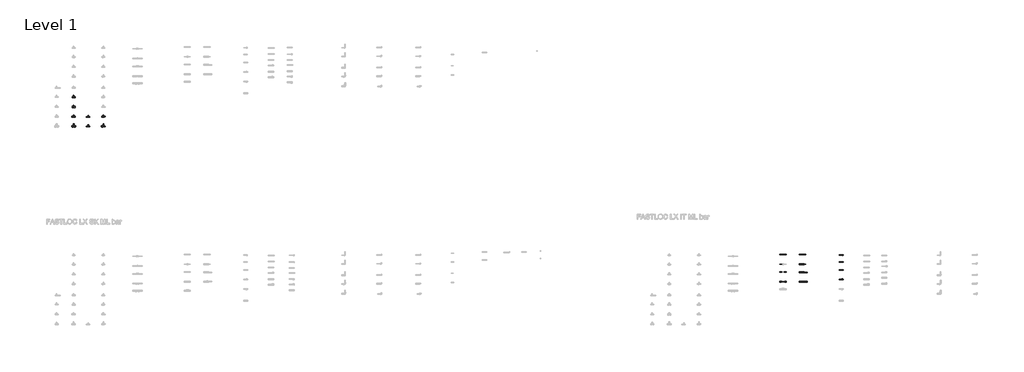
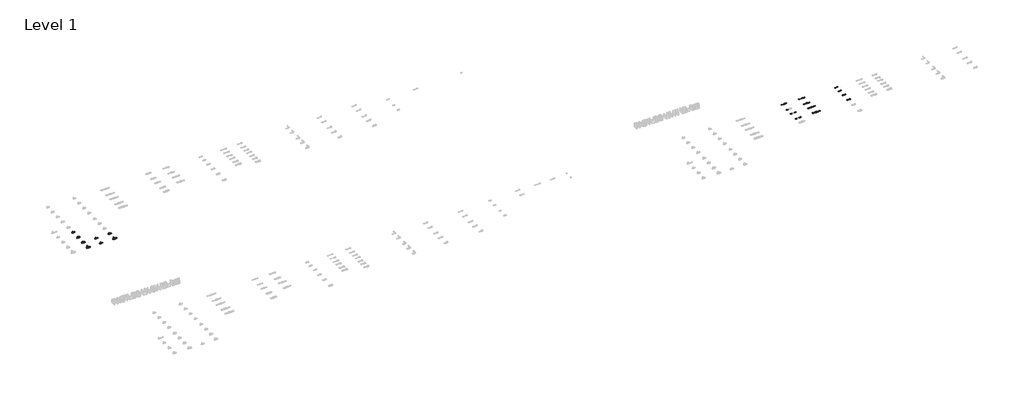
# One storey, part 21 of 78: 39 pipe segments, 17 pipe fittings.
"""IFC4 building model written with IfcOpenShell, lengths in millimetres."""

from ifc_helpers import new_model, si_unit, point, frame, frame_2d, origin, place, context, project, spatial, circle_curve, trimmed, segment, composite_curve, outline, extrude, transform, mapped, element, save
from components import pipe_fitting_e93012df, pipe_fitting_027be69e, pipe_fitting_14a26f43, pipe_fitting_b40a3e3c, pipe_fitting_68251213, pipe_fitting_15165f03, pipe_fitting_7e3be5b8, pipe_fitting_19df1a9e, pipe_fitting_16730f07, pipe_fitting_c4e8b4db, pipe_fitting_757463f1, pipe_fitting_0b32e4b0, pipe_fitting_0562571e, pipe_fitting_d14a7251, pipe_fitting_38e91122, pipe_fitting_ee510fd7, pipe_fitting_a999c26e

model = new_model("IFC4")

# Units and contexts
model_context = context("Model", 3, world=origin())
ifc_project = project(units=[si_unit("LENGTHUNIT", "METRE", prefix="MILLI")], contexts=[model_context])

# Site, building, storey
site = spatial("IfcSite", under=ifc_project)
building = spatial("IfcBuilding", under=site)
storey = spatial("IfcBuildingStorey", under=building, Name="Level 1", Elevation=0.0)

# Pipe fittings
placement = place(None, origin())
pipe_fitting_shape = pipe_fitting_e93012df(model_context)
element("IfcPipeFitting", 1, ObjectType="FASTLOC_Adapter_LX, with external thread : FSL A C external IT", at=placement, inside=storey, context=model_context, shape_type="MappedRepresentation", body=[
    mapped(pipe_fitting_shape, transform((31926.3785179, -18735.7057457, 0.0), x_axis=(1.0, 0.0, 0.0), y_axis=(0.0, 1.0, 0.0), z_axis=(0.0, 0.0, 1.0))),
])
pipe_fitting_2_shape = pipe_fitting_027be69e(model_context)
element("IfcPipeFitting", 2, ObjectType="FASTLOC_Coupling equal LX : FSL C LX IT", at=placement, inside=storey, context=model_context, shape_type="MappedRepresentation", body=[
    mapped(pipe_fitting_2_shape, transform((29488.3790161, -18705.8821283, 0.0), x_axis=(1.0, 0.0, 0.0), y_axis=(0.0, 1.0, 0.0), z_axis=(0.0, 0.0, 1.0))),
])
pipe_fitting_3_shape = pipe_fitting_14a26f43(model_context)
element("IfcPipeFitting", 3, ObjectType="FASTLOC_Coupling reduced LX : FSL C LX IT", at=placement, inside=storey, context=model_context, shape_type="MappedRepresentation", body=[
    mapped(pipe_fitting_3_shape, transform((30326.6928556, -19825.8821283, 0.0), x_axis=(1.0, 0.0, 0.0), y_axis=(0.0, 1.0, 0.0), z_axis=(0.0, 0.0, 1.0))),
])
pipe_fitting_4_shape = pipe_fitting_b40a3e3c(model_context)
element("IfcPipeFitting", 4, ObjectType="FASTLOC_T-piece_LX : FSL T-Piece LX UA", at=placement, inside=storey, context=model_context, shape_type="MappedRepresentation", body=[
    mapped(pipe_fitting_4_shape, transform((426.7498072, -12260.2405791, 0.0), x_axis=(1.0, 0.0, 0.0), y_axis=(0.0, 1.0, 0.0), z_axis=(0.0, 0.0, 1.0))),
])
pipe_fitting_5_shape = pipe_fitting_68251213(model_context)
element("IfcPipeFitting", 5, ObjectType="FASTLOC_T-piece_LX : FSL T-Piece LX UA", at=placement, inside=storey, context=model_context, shape_type="MappedRepresentation", body=[
    mapped(pipe_fitting_5_shape, transform((426.7498072, -12660.2405791, 0.0), x_axis=(1.0, 0.0, 0.0), y_axis=(0.0, 1.0, 0.0), z_axis=(0.0, 0.0, 1.0))),
])
pipe_fitting_6_shape = pipe_fitting_15165f03(model_context)
element("IfcPipeFitting", 6, ObjectType="FASTLOC_T-piece_LX : FSL T-Piece LX UA", at=placement, inside=storey, context=model_context, shape_type="MappedRepresentation", body=[
    mapped(pipe_fitting_6_shape, transform((426.7498072, -13060.2405791, 0.0), x_axis=(1.0, 0.0, 0.0), y_axis=(0.0, 1.0, 0.0), z_axis=(0.0, 0.0, 1.0))),
])
pipe_fitting_7_shape = pipe_fitting_7e3be5b8(model_context)
element("IfcPipeFitting", 7, ObjectType="FASTLOC_T-piece_LX : FSL T-Piece LX UA", at=placement, inside=storey, context=model_context, shape_type="MappedRepresentation", body=[
    mapped(pipe_fitting_7_shape, transform((426.7498072, -13460.2405791, 0.0), x_axis=(1.0, 0.0, 0.0), y_axis=(0.0, 1.0, 0.0), z_axis=(0.0, 0.0, 1.0))),
])
pipe_fitting_8_shape = pipe_fitting_19df1a9e(model_context)
element("IfcPipeFitting", 8, ObjectType="FASTLOC_T-piece_LX : FSL T-Piece LX UA", at=placement, inside=storey, context=model_context, shape_type="MappedRepresentation", body=[
    mapped(pipe_fitting_8_shape, transform((1026.7498072, -13080.2405791, 0.0), x_axis=(1.0, 0.0, 0.0), y_axis=(0.0, 1.0, 0.0), z_axis=(0.0, 0.0, 1.0))),
])
pipe_fitting_9_shape = pipe_fitting_16730f07(model_context)
element("IfcPipeFitting", 9, ObjectType="FASTLOC_T-piece_LX : FSL T-Piece LX UA", at=placement, inside=storey, context=model_context, shape_type="MappedRepresentation", body=[
    mapped(pipe_fitting_9_shape, transform((1026.7498072, -13460.2405791, 0.0), x_axis=(1.0, 0.0, 0.0), y_axis=(0.0, 1.0, 0.0), z_axis=(0.0, 0.0, 1.0))),
])
pipe_fitting_10_shape = pipe_fitting_c4e8b4db(model_context)
element("IfcPipeFitting", 10, ObjectType="FASTLOC_T-piece_LX : FSL T-Piece LX UA", at=placement, inside=storey, context=model_context, shape_type="MappedRepresentation", body=[
    mapped(pipe_fitting_10_shape, transform((1646.7498072, -13060.2405791, 0.0), x_axis=(1.0, 0.0, 0.0), y_axis=(0.0, 1.0, 0.0), z_axis=(0.0, 0.0, 1.0))),
])
pipe_fitting_11_shape = pipe_fitting_757463f1(model_context)
element("IfcPipeFitting", 11, ObjectType="FASTLOC_T-piece_LX : FSL T-Piece LX UA", at=placement, inside=storey, context=model_context, shape_type="MappedRepresentation", body=[
    mapped(pipe_fitting_11_shape, transform((1646.7498072, -13460.2405791, 0.0), x_axis=(1.0, 0.0, 0.0), y_axis=(0.0, 1.0, 0.0), z_axis=(0.0, 0.0, 1.0))),
])
pipe_fitting_12_shape = pipe_fitting_0b32e4b0(model_context)
element("IfcPipeFitting", 12, ObjectType="FASTLOC_Coupling reduced LX : FSL C LX IT", at=placement, inside=storey, context=model_context, shape_type="MappedRepresentation", body=[
    mapped(pipe_fitting_12_shape, transform((30326.6928556, -18705.8821283, 0.0), x_axis=(1.0, 0.0, 0.0), y_axis=(0.0, 1.0, 0.0), z_axis=(0.0, 0.0, 1.0))),
])
pipe_fitting_13_shape = pipe_fitting_0562571e(model_context)
element("IfcPipeFitting", 13, ObjectType="FASTLOC_Coupling reduced LX : FSL C LX IT", at=placement, inside=storey, context=model_context, shape_type="MappedRepresentation", body=[
    mapped(pipe_fitting_13_shape, transform((30326.6928556, -19105.8821283, 0.0), x_axis=(1.0, 0.0, 0.0), y_axis=(0.0, 1.0, 0.0), z_axis=(0.0, 0.0, 1.0))),
])
pipe_fitting_14_shape = pipe_fitting_d14a7251(model_context)
element("IfcPipeFitting", 14, ObjectType="FASTLOC_Coupling reduced LX : FSL C LX IT", at=placement, inside=storey, context=model_context, shape_type="MappedRepresentation", body=[
    mapped(pipe_fitting_14_shape, transform((30326.6928556, -19438.3821283, 0.0), x_axis=(1.0, 0.0, 0.0), y_axis=(0.0, 1.0, 0.0), z_axis=(0.0, 0.0, 1.0))),
])
pipe_fitting_15_shape = pipe_fitting_38e91122(model_context)
element("IfcPipeFitting", 15, ObjectType="FASTLOC_Adapter_LX, with external thread : FSL A C external IT", at=placement, inside=storey, context=model_context, shape_type="MappedRepresentation", body=[
    mapped(pipe_fitting_15_shape, transform((31926.8953131, -19014.2068389, 0.0), x_axis=(1.0, 0.0, 0.0), y_axis=(0.0, 1.0, 0.0), z_axis=(0.0, 0.0, 1.0))),
])
pipe_fitting_16_shape = pipe_fitting_ee510fd7(model_context)
element("IfcPipeFitting", 16, ObjectType="FASTLOC_Adapter_LX, with external thread : FSL A C external IT", at=placement, inside=storey, context=model_context, shape_type="MappedRepresentation", body=[
    mapped(pipe_fitting_16_shape, transform((31926.8953131, -19344.2068389, 0.0), x_axis=(1.0, 0.0, 0.0), y_axis=(0.0, 1.0, 0.0), z_axis=(0.0, 0.0, 1.0))),
])
pipe_fitting_17_shape = pipe_fitting_a999c26e(model_context)
element("IfcPipeFitting", 17, ObjectType="FASTLOC_Adapter_LX, with external thread : FSL A C external IT", at=placement, inside=storey, context=model_context, shape_type="MappedRepresentation", body=[
    mapped(pipe_fitting_17_shape, transform((31926.8953131, -19724.2068389, 0.0), x_axis=(1.0, 0.0, 0.0), y_axis=(0.0, 1.0, 0.0), z_axis=(0.0, 0.0, 1.0))),
])

# Pipe segments
element("IfcPipeSegment", 18, ObjectType="FASTLOC LX ML UA bar", at=placement, inside=storey, context=model_context, shape_type="SweptSolid", body=[
    extrude(outline(composite_curve([segment(trimmed(circle_curve(frame_2d((-12260.2405791, 0.0)), 16.0), [point((-12276.2405791, 0.0))], [point((-12260.2405791, 16.0))], False, "CARTESIAN"), True, "CONTINUOUS"), segment(trimmed(circle_curve(frame_2d((-12260.2405791, 0.0)), 16.0), [point((-12260.2405791, 16.0))], [point((-12244.2405791, 0.0))], False, "CARTESIAN"), True, "CONTINUOUS"), segment(trimmed(circle_curve(frame_2d((-12260.2405791, 0.0)), 16.0), [point((-12244.2405791, 0.0))], [point((-12260.2405791, -16.0))], False, "CARTESIAN"), True, "CONTINUOUS"), segment(trimmed(circle_curve(frame_2d((-12260.2405791, 0.0)), 16.0), [point((-12260.2405791, -16.0))], [point((-12276.2405791, 0.0))], False, "CARTESIAN"), True, "CONTINUOUS")], self_intersect=False)), frame((448.7498072, 0.0, 0.0), z_axis=(1.0, 0.0, 0.0), x_axis=(0.0, 1.0, 0.0)), (0.0, 0.0, 1.0), 40.0),
])
element("IfcPipeSegment", 19, ObjectType="FASTLOC LX ML UA bar", at=placement, inside=storey, context=model_context, shape_type="SweptSolid", body=[
    extrude(outline(composite_curve([segment(trimmed(circle_curve(frame_2d((-12260.2405791, 0.0)), 16.0), [point((-12244.2405791, 0.0))], [point((-12260.2405791, -16.0))], False, "CARTESIAN"), True, "CONTINUOUS"), segment(trimmed(circle_curve(frame_2d((-12260.2405791, 0.0)), 16.0), [point((-12260.2405791, -16.0))], [point((-12276.2405791, 0.0))], False, "CARTESIAN"), True, "CONTINUOUS"), segment(trimmed(circle_curve(frame_2d((-12260.2405791, 0.0)), 16.0), [point((-12276.2405791, 0.0))], [point((-12260.2405791, 16.0))], False, "CARTESIAN"), True, "CONTINUOUS"), segment(trimmed(circle_curve(frame_2d((-12260.2405791, 0.0)), 16.0), [point((-12260.2405791, 16.0))], [point((-12244.2405791, 0.0))], False, "CARTESIAN"), True, "CONTINUOUS")], self_intersect=False)), frame((364.7498072, 0.0, 0.0), z_axis=(1.0, 0.0, 0.0), x_axis=(0.0, 1.0, 0.0)), (0.0, 0.0, 1.0), 40.0),
])
element("IfcPipeSegment", 20, ObjectType="FASTLOC LX ML UA bar", at=placement, inside=storey, context=model_context, shape_type="SweptSolid", body=[
    extrude(outline(composite_curve([segment(trimmed(circle_curve(frame_2d((0.0, 426.7498072)), 12.5), [point((0.0, 439.2498072))], [point((12.5, 426.7498072))], False, "CARTESIAN"), True, "CONTINUOUS"), segment(trimmed(circle_curve(frame_2d((0.0, 426.7498072)), 12.5), [point((12.5, 426.7498072))], [point((0.0, 414.2498072))], False, "CARTESIAN"), True, "CONTINUOUS"), segment(trimmed(circle_curve(frame_2d((0.0, 426.7498072)), 12.5), [point((0.0, 414.2498072))], [point((-12.5, 426.7498072))], False, "CARTESIAN"), True, "CONTINUOUS"), segment(trimmed(circle_curve(frame_2d((0.0, 426.7498072)), 12.5), [point((-12.5, 426.7498072))], [point((0.0, 439.2498072))], False, "CARTESIAN"), True, "CONTINUOUS")], self_intersect=False)), frame((0.0, -12225.8405791, 0.0), z_axis=(0.0, 1.0, 0.0), x_axis=(0.0, 0.0, 1.0)), (0.0, 0.0, 1.0), 37.9),
])
element("IfcPipeSegment", 21, ObjectType="FASTLOC LX ML UA bar", at=placement, inside=storey, context=model_context, shape_type="SweptSolid", body=[
    extrude(outline(composite_curve([segment(trimmed(circle_curve(frame_2d((-12660.2405791, 0.0)), 20.0), [point((-12680.2405791, 0.0))], [point((-12660.2405791, 20.0))], False, "CARTESIAN"), True, "CONTINUOUS"), segment(trimmed(circle_curve(frame_2d((-12660.2405791, 0.0)), 20.0), [point((-12660.2405791, 20.0))], [point((-12640.2405791, 0.0))], False, "CARTESIAN"), True, "CONTINUOUS"), segment(trimmed(circle_curve(frame_2d((-12660.2405791, 0.0)), 20.0), [point((-12640.2405791, 0.0))], [point((-12660.2405791, -20.0))], False, "CARTESIAN"), True, "CONTINUOUS"), segment(trimmed(circle_curve(frame_2d((-12660.2405791, 0.0)), 20.0), [point((-12660.2405791, -20.0))], [point((-12680.2405791, 0.0))], False, "CARTESIAN"), True, "CONTINUOUS")], self_intersect=False)), frame((450.7498072, 0.0, 0.0), z_axis=(1.0, 0.0, 0.0), x_axis=(0.0, 1.0, 0.0)), (0.0, 0.0, 1.0), 45.0),
])
element("IfcPipeSegment", 22, ObjectType="FASTLOC LX ML UA bar", at=placement, inside=storey, context=model_context, shape_type="SweptSolid", body=[
    extrude(outline(composite_curve([segment(trimmed(circle_curve(frame_2d((-13060.2405791, 0.0)), 20.0), [point((-13080.2405791, 0.0))], [point((-13060.2405791, 20.0))], False, "CARTESIAN"), True, "CONTINUOUS"), segment(trimmed(circle_curve(frame_2d((-13060.2405791, 0.0)), 20.0), [point((-13060.2405791, 20.0))], [point((-13040.2405791, 0.0))], False, "CARTESIAN"), True, "CONTINUOUS"), segment(trimmed(circle_curve(frame_2d((-13060.2405791, 0.0)), 20.0), [point((-13040.2405791, 0.0))], [point((-13060.2405791, -20.0))], False, "CARTESIAN"), True, "CONTINUOUS"), segment(trimmed(circle_curve(frame_2d((-13060.2405791, 0.0)), 20.0), [point((-13060.2405791, -20.0))], [point((-13080.2405791, 0.0))], False, "CARTESIAN"), True, "CONTINUOUS")], self_intersect=False)), frame((452.5498072, 0.0, 0.0), z_axis=(1.0, 0.0, 0.0), x_axis=(0.0, 1.0, 0.0)), (0.0, 0.0, 1.0), 47.8),
])
element("IfcPipeSegment", 23, ObjectType="FASTLOC LX ML UA bar", at=placement, inside=storey, context=model_context, shape_type="SweptSolid", body=[
    extrude(outline(composite_curve([segment(trimmed(circle_curve(frame_2d((-13060.2405791, 0.0)), 20.0), [point((-13040.2405791, 0.0))], [point((-13060.2405791, -20.0))], False, "CARTESIAN"), True, "CONTINUOUS"), segment(trimmed(circle_curve(frame_2d((-13060.2405791, 0.0)), 20.0), [point((-13060.2405791, -20.0))], [point((-13080.2405791, 0.0))], False, "CARTESIAN"), True, "CONTINUOUS"), segment(trimmed(circle_curve(frame_2d((-13060.2405791, 0.0)), 20.0), [point((-13080.2405791, 0.0))], [point((-13060.2405791, 20.0))], False, "CARTESIAN"), True, "CONTINUOUS"), segment(trimmed(circle_curve(frame_2d((-13060.2405791, 0.0)), 20.0), [point((-13060.2405791, 20.0))], [point((-13040.2405791, 0.0))], False, "CARTESIAN"), True, "CONTINUOUS")], self_intersect=False)), frame((353.1498072, 0.0, 0.0), z_axis=(1.0, 0.0, 0.0), x_axis=(0.0, 1.0, 0.0)), (0.0, 0.0, 1.0), 47.8),
])
element("IfcPipeSegment", 24, ObjectType="FASTLOC LX ML UA bar", at=placement, inside=storey, context=model_context, shape_type="SweptSolid", body=[
    extrude(outline(composite_curve([segment(trimmed(circle_curve(frame_2d((-13460.2405791, 0.0)), 20.0), [point((-13480.2405791, 0.0))], [point((-13460.2405791, 20.0))], False, "CARTESIAN"), True, "CONTINUOUS"), segment(trimmed(circle_curve(frame_2d((-13460.2405791, 0.0)), 20.0), [point((-13460.2405791, 20.0))], [point((-13440.2405791, 0.0))], False, "CARTESIAN"), True, "CONTINUOUS"), segment(trimmed(circle_curve(frame_2d((-13460.2405791, 0.0)), 20.0), [point((-13440.2405791, 0.0))], [point((-13460.2405791, -20.0))], False, "CARTESIAN"), True, "CONTINUOUS"), segment(trimmed(circle_curve(frame_2d((-13460.2405791, 0.0)), 20.0), [point((-13460.2405791, -20.0))], [point((-13480.2405791, 0.0))], False, "CARTESIAN"), True, "CONTINUOUS")], self_intersect=False)), frame((455.3498072, 0.0, 0.0), z_axis=(1.0, 0.0, 0.0), x_axis=(0.0, 1.0, 0.0)), (0.0, 0.0, 1.0), 52.8),
])
element("IfcPipeSegment", 25, ObjectType="FASTLOC LX ML UA bar", at=placement, inside=storey, context=model_context, shape_type="SweptSolid", body=[
    extrude(outline(composite_curve([segment(trimmed(circle_curve(frame_2d((-13460.2405791, 0.0)), 20.0), [point((-13440.2405791, 0.0))], [point((-13460.2405791, -20.0))], False, "CARTESIAN"), True, "CONTINUOUS"), segment(trimmed(circle_curve(frame_2d((-13460.2405791, 0.0)), 20.0), [point((-13460.2405791, -20.0))], [point((-13480.2405791, 0.0))], False, "CARTESIAN"), True, "CONTINUOUS"), segment(trimmed(circle_curve(frame_2d((-13460.2405791, 0.0)), 20.0), [point((-13480.2405791, 0.0))], [point((-13460.2405791, 20.0))], False, "CARTESIAN"), True, "CONTINUOUS"), segment(trimmed(circle_curve(frame_2d((-13460.2405791, 0.0)), 20.0), [point((-13460.2405791, 20.0))], [point((-13440.2405791, 0.0))], False, "CARTESIAN"), True, "CONTINUOUS")], self_intersect=False)), frame((345.3498072, 0.0, 0.0), z_axis=(1.0, 0.0, 0.0), x_axis=(0.0, 1.0, 0.0)), (0.0, 0.0, 1.0), 52.8),
])
element("IfcPipeSegment", 26, ObjectType="FASTLOC LX ML UA bar", at=placement, inside=storey, context=model_context, shape_type="SweptSolid", body=[
    extrude(outline(composite_curve([segment(trimmed(circle_curve(frame_2d((0.0, 426.7498072)), 16.0), [point((0.0, 442.7498072))], [point((16.0, 426.7498072))], False, "CARTESIAN"), True, "CONTINUOUS"), segment(trimmed(circle_curve(frame_2d((0.0, 426.7498072)), 16.0), [point((16.0, 426.7498072))], [point((0.0, 410.7498072))], False, "CARTESIAN"), True, "CONTINUOUS"), segment(trimmed(circle_curve(frame_2d((0.0, 426.7498072)), 16.0), [point((0.0, 410.7498072))], [point((-16.0, 426.7498072))], False, "CARTESIAN"), True, "CONTINUOUS"), segment(trimmed(circle_curve(frame_2d((0.0, 426.7498072)), 16.0), [point((-16.0, 426.7498072))], [point((0.0, 442.7498072))], False, "CARTESIAN"), True, "CONTINUOUS")], self_intersect=False)), frame((0.0, -13417.4405791, 0.0), z_axis=(0.0, 1.0, 0.0), x_axis=(0.0, 0.0, 1.0)), (0.0, 0.0, 1.0), 64.8),
])
element("IfcPipeSegment", 27, ObjectType="FASTLOC LX ML UA bar", at=placement, inside=storey, context=model_context, shape_type="SweptSolid", body=[
    extrude(outline(composite_curve([segment(trimmed(circle_curve(frame_2d((-13080.2405791, 0.0)), 8.0), [point((-13088.2405791, 0.0))], [point((-13080.2405791, 8.0))], False, "CARTESIAN"), True, "CONTINUOUS"), segment(trimmed(circle_curve(frame_2d((-13080.2405791, 0.0)), 8.0), [point((-13080.2405791, 8.0))], [point((-13072.2405791, 0.0))], False, "CARTESIAN"), True, "CONTINUOUS"), segment(trimmed(circle_curve(frame_2d((-13080.2405791, 0.0)), 8.0), [point((-13072.2405791, 0.0))], [point((-13080.2405791, -8.0))], False, "CARTESIAN"), True, "CONTINUOUS"), segment(trimmed(circle_curve(frame_2d((-13080.2405791, 0.0)), 8.0), [point((-13080.2405791, -8.0))], [point((-13088.2405791, 0.0))], False, "CARTESIAN"), True, "CONTINUOUS")], self_intersect=False)), frame((1043.7498072, 0.0, 0.0), z_axis=(1.0, 0.0, 0.0), x_axis=(0.0, 1.0, 0.0)), (0.0, 0.0, 1.0), 45.0),
])
element("IfcPipeSegment", 28, ObjectType="FASTLOC LX ML UA bar", at=placement, inside=storey, context=model_context, shape_type="SweptSolid", body=[
    extrude(outline(composite_curve([segment(trimmed(circle_curve(frame_2d((-13080.2405791, 0.0)), 8.0), [point((-13072.2405791, 0.0))], [point((-13080.2405791, -8.0))], False, "CARTESIAN"), True, "CONTINUOUS"), segment(trimmed(circle_curve(frame_2d((-13080.2405791, 0.0)), 8.0), [point((-13080.2405791, -8.0))], [point((-13088.2405791, 0.0))], False, "CARTESIAN"), True, "CONTINUOUS"), segment(trimmed(circle_curve(frame_2d((-13080.2405791, 0.0)), 8.0), [point((-13088.2405791, 0.0))], [point((-13080.2405791, 8.0))], False, "CARTESIAN"), True, "CONTINUOUS"), segment(trimmed(circle_curve(frame_2d((-13080.2405791, 0.0)), 8.0), [point((-13080.2405791, 8.0))], [point((-13072.2405791, 0.0))], False, "CARTESIAN"), True, "CONTINUOUS")], self_intersect=False)), frame((949.3498072, 0.0, 0.0), z_axis=(1.0, 0.0, 0.0), x_axis=(0.0, 1.0, 0.0)), (0.0, 0.0, 1.0), 60.0),
])
element("IfcPipeSegment", 29, ObjectType="FASTLOC LX ML UA bar", at=placement, inside=storey, context=model_context, shape_type="SweptSolid", body=[
    extrude(outline(composite_curve([segment(trimmed(circle_curve(frame_2d((0.0, 1026.7498072)), 8.0), [point((0.0, 1034.7498072))], [point((8.0, 1026.7498072))], False, "CARTESIAN"), True, "CONTINUOUS"), segment(trimmed(circle_curve(frame_2d((0.0, 1026.7498072)), 8.0), [point((8.0, 1026.7498072))], [point((0.0, 1018.7498072))], False, "CARTESIAN"), True, "CONTINUOUS"), segment(trimmed(circle_curve(frame_2d((0.0, 1026.7498072)), 8.0), [point((0.0, 1018.7498072))], [point((-8.0, 1026.7498072))], False, "CARTESIAN"), True, "CONTINUOUS"), segment(trimmed(circle_curve(frame_2d((0.0, 1026.7498072)), 8.0), [point((-8.0, 1026.7498072))], [point((0.0, 1034.7498072))], False, "CARTESIAN"), True, "CONTINUOUS")], self_intersect=False)), frame((0.0, -13053.8405791, 0.0), z_axis=(0.0, 1.0, 0.0), x_axis=(0.0, 0.0, 1.0)), (0.0, 0.0, 1.0), 45.9),
])
element("IfcPipeSegment", 30, ObjectType="FASTLOC LX ML UA bar", at=placement, inside=storey, context=model_context, shape_type="SweptSolid", body=[
    extrude(outline(composite_curve([segment(trimmed(circle_curve(frame_2d((-13460.2405791, 0.0)), 8.0), [point((-13468.2405791, 0.0))], [point((-13460.2405791, 8.0))], False, "CARTESIAN"), True, "CONTINUOUS"), segment(trimmed(circle_curve(frame_2d((-13460.2405791, 0.0)), 8.0), [point((-13460.2405791, 8.0))], [point((-13452.2405791, 0.0))], False, "CARTESIAN"), True, "CONTINUOUS"), segment(trimmed(circle_curve(frame_2d((-13460.2405791, 0.0)), 8.0), [point((-13452.2405791, 0.0))], [point((-13460.2405791, -8.0))], False, "CARTESIAN"), True, "CONTINUOUS"), segment(trimmed(circle_curve(frame_2d((-13460.2405791, 0.0)), 8.0), [point((-13460.2405791, -8.0))], [point((-13468.2405791, 0.0))], False, "CARTESIAN"), True, "CONTINUOUS")], self_intersect=False)), frame((1045.5498072, 0.0, 0.0), z_axis=(1.0, 0.0, 0.0), x_axis=(0.0, 1.0, 0.0)), (0.0, 0.0, 1.0), 43.2),
])
element("IfcPipeSegment", 31, ObjectType="FASTLOC LX ML UA bar", at=placement, inside=storey, context=model_context, shape_type="SweptSolid", body=[
    extrude(outline(composite_curve([segment(trimmed(circle_curve(frame_2d((-13460.2405791, 0.0)), 12.5), [point((-13447.7405791, 0.0))], [point((-13460.2405791, -12.5))], False, "CARTESIAN"), True, "CONTINUOUS"), segment(trimmed(circle_curve(frame_2d((-13460.2405791, 0.0)), 12.5), [point((-13460.2405791, -12.5))], [point((-13472.7405791, 0.0))], False, "CARTESIAN"), True, "CONTINUOUS"), segment(trimmed(circle_curve(frame_2d((-13460.2405791, 0.0)), 12.5), [point((-13472.7405791, 0.0))], [point((-13460.2405791, 12.5))], False, "CARTESIAN"), True, "CONTINUOUS"), segment(trimmed(circle_curve(frame_2d((-13460.2405791, 0.0)), 12.5), [point((-13460.2405791, 12.5))], [point((-13447.7405791, 0.0))], False, "CARTESIAN"), True, "CONTINUOUS")], self_intersect=False)), frame((944.3498072, 0.0, 0.0), z_axis=(1.0, 0.0, 0.0), x_axis=(0.0, 1.0, 0.0)), (0.0, 0.0, 1.0), 62.3),
])
element("IfcPipeSegment", 32, ObjectType="FASTLOC LX ML UA bar", at=placement, inside=storey, context=model_context, shape_type="SweptSolid", body=[
    extrude(outline(composite_curve([segment(trimmed(circle_curve(frame_2d((0.0, 1026.7498072)), 12.5), [point((0.0, 1039.2498072))], [point((12.5, 1026.7498072))], False, "CARTESIAN"), True, "CONTINUOUS"), segment(trimmed(circle_curve(frame_2d((0.0, 1026.7498072)), 12.5), [point((12.5, 1026.7498072))], [point((0.0, 1014.2498072))], False, "CARTESIAN"), True, "CONTINUOUS"), segment(trimmed(circle_curve(frame_2d((0.0, 1026.7498072)), 12.5), [point((0.0, 1014.2498072))], [point((-12.5, 1026.7498072))], False, "CARTESIAN"), True, "CONTINUOUS"), segment(trimmed(circle_curve(frame_2d((0.0, 1026.7498072)), 12.5), [point((-12.5, 1026.7498072))], [point((0.0, 1039.2498072))], False, "CARTESIAN"), True, "CONTINUOUS")], self_intersect=False)), frame((0.0, -13430.7405791, 0.0), z_axis=(0.0, 1.0, 0.0), x_axis=(0.0, 0.0, 1.0)), (0.0, 0.0, 1.0), 42.8),
])
element("IfcPipeSegment", 33, ObjectType="FASTLOC LX ML UA bar", at=placement, inside=storey, context=model_context, shape_type="SweptSolid", body=[
    extrude(outline(composite_curve([segment(trimmed(circle_curve(frame_2d((-13060.2405791, 0.0)), 12.5), [point((-13072.7405791, 0.0))], [point((-13060.2405791, 12.5))], False, "CARTESIAN"), True, "CONTINUOUS"), segment(trimmed(circle_curve(frame_2d((-13060.2405791, 0.0)), 12.5), [point((-13060.2405791, 12.5))], [point((-13047.7405791, 0.0))], False, "CARTESIAN"), True, "CONTINUOUS"), segment(trimmed(circle_curve(frame_2d((-13060.2405791, 0.0)), 12.5), [point((-13047.7405791, 0.0))], [point((-13060.2405791, -12.5))], False, "CARTESIAN"), True, "CONTINUOUS"), segment(trimmed(circle_curve(frame_2d((-13060.2405791, 0.0)), 12.5), [point((-13060.2405791, -12.5))], [point((-13072.7405791, 0.0))], False, "CARTESIAN"), True, "CONTINUOUS")], self_intersect=False)), frame((1666.8498072, 0.0, 0.0), z_axis=(1.0, 0.0, 0.0), x_axis=(0.0, 1.0, 0.0)), (0.0, 0.0, 1.0), 53.5),
])
element("IfcPipeSegment", 34, ObjectType="FASTLOC LX ML UA bar", at=placement, inside=storey, context=model_context, shape_type="SweptSolid", body=[
    extrude(outline(composite_curve([segment(trimmed(circle_curve(frame_2d((-13060.2405791, 0.0)), 16.0), [point((-13044.2405791, 0.0))], [point((-13060.2405791, -16.0))], False, "CARTESIAN"), True, "CONTINUOUS"), segment(trimmed(circle_curve(frame_2d((-13060.2405791, 0.0)), 16.0), [point((-13060.2405791, -16.0))], [point((-13076.2405791, 0.0))], False, "CARTESIAN"), True, "CONTINUOUS"), segment(trimmed(circle_curve(frame_2d((-13060.2405791, 0.0)), 16.0), [point((-13076.2405791, 0.0))], [point((-13060.2405791, 16.0))], False, "CARTESIAN"), True, "CONTINUOUS"), segment(trimmed(circle_curve(frame_2d((-13060.2405791, 0.0)), 16.0), [point((-13060.2405791, 16.0))], [point((-13044.2405791, 0.0))], False, "CARTESIAN"), True, "CONTINUOUS")], self_intersect=False)), frame((1573.1498072, 0.0, 0.0), z_axis=(1.0, 0.0, 0.0), x_axis=(0.0, 1.0, 0.0)), (0.0, 0.0, 1.0), 51.5),
])
element("IfcPipeSegment", 35, ObjectType="FASTLOC LX ML UA bar", at=placement, inside=storey, context=model_context, shape_type="SweptSolid", body=[
    extrude(outline(composite_curve([segment(trimmed(circle_curve(frame_2d((-13460.2405791, 0.0)), 16.0), [point((-13476.2405791, 0.0))], [point((-13460.2405791, 16.0))], False, "CARTESIAN"), True, "CONTINUOUS"), segment(trimmed(circle_curve(frame_2d((-13460.2405791, 0.0)), 16.0), [point((-13460.2405791, 16.0))], [point((-13444.2405791, 0.0))], False, "CARTESIAN"), True, "CONTINUOUS"), segment(trimmed(circle_curve(frame_2d((-13460.2405791, 0.0)), 16.0), [point((-13444.2405791, 0.0))], [point((-13460.2405791, -16.0))], False, "CARTESIAN"), True, "CONTINUOUS"), segment(trimmed(circle_curve(frame_2d((-13460.2405791, 0.0)), 16.0), [point((-13460.2405791, -16.0))], [point((-13476.2405791, 0.0))], False, "CARTESIAN"), True, "CONTINUOUS")], self_intersect=False)), frame((1671.6498072, 0.0, 0.0), z_axis=(1.0, 0.0, 0.0), x_axis=(0.0, 1.0, 0.0)), (0.0, 0.0, 1.0), 56.5),
])
element("IfcPipeSegment", 36, ObjectType="FASTLOC LX ML UA bar", at=placement, inside=storey, context=model_context, shape_type="SweptSolid", body=[
    extrude(outline(composite_curve([segment(trimmed(circle_curve(frame_2d((-13460.2405791, 0.0)), 20.0), [point((-13440.2405791, 0.0))], [point((-13460.2405791, -20.0))], False, "CARTESIAN"), True, "CONTINUOUS"), segment(trimmed(circle_curve(frame_2d((-13460.2405791, 0.0)), 20.0), [point((-13460.2405791, -20.0))], [point((-13480.2405791, 0.0))], False, "CARTESIAN"), True, "CONTINUOUS"), segment(trimmed(circle_curve(frame_2d((-13460.2405791, 0.0)), 20.0), [point((-13480.2405791, 0.0))], [point((-13460.2405791, 20.0))], False, "CARTESIAN"), True, "CONTINUOUS"), segment(trimmed(circle_curve(frame_2d((-13460.2405791, 0.0)), 20.0), [point((-13460.2405791, 20.0))], [point((-13440.2405791, 0.0))], False, "CARTESIAN"), True, "CONTINUOUS")], self_intersect=False)), frame((1565.3498072, 0.0, 0.0), z_axis=(1.0, 0.0, 0.0), x_axis=(0.0, 1.0, 0.0)), (0.0, 0.0, 1.0), 52.7),
])
element("IfcPipeSegment", 37, ObjectType="FASTLOC LX ML UA bar", at=placement, inside=storey, context=model_context, shape_type="SweptSolid", body=[
    extrude(outline(composite_curve([segment(trimmed(circle_curve(frame_2d((0.0, 1646.7498072)), 16.0), [point((0.0, 1662.7498072))], [point((16.0, 1646.7498072))], False, "CARTESIAN"), True, "CONTINUOUS"), segment(trimmed(circle_curve(frame_2d((0.0, 1646.7498072)), 16.0), [point((16.0, 1646.7498072))], [point((0.0, 1630.7498072))], False, "CARTESIAN"), True, "CONTINUOUS"), segment(trimmed(circle_curve(frame_2d((0.0, 1646.7498072)), 16.0), [point((0.0, 1630.7498072))], [point((-16.0, 1646.7498072))], False, "CARTESIAN"), True, "CONTINUOUS"), segment(trimmed(circle_curve(frame_2d((0.0, 1646.7498072)), 16.0), [point((-16.0, 1646.7498072))], [point((0.0, 1662.7498072))], False, "CARTESIAN"), True, "CONTINUOUS")], self_intersect=False)), frame((0.0, -13417.4405791, 0.0), z_axis=(0.0, 1.0, 0.0), x_axis=(0.0, 0.0, 1.0)), (0.0, 0.0, 1.0), 64.8),
])
element("IfcPipeSegment", 38, ObjectType="FASTLOC LX ML IT bar", at=placement, inside=storey, context=model_context, shape_type="SweptSolid", body=[
    extrude(outline(composite_curve([segment(trimmed(circle_curve(frame_2d((-18705.8821283, 0.0)), 8.0), [point((-18713.8821283, 0.0))], [point((-18705.8821283, 8.0))], False, "CARTESIAN"), True, "CONTINUOUS"), segment(trimmed(circle_curve(frame_2d((-18705.8821283, 0.0)), 8.0), [point((-18705.8821283, 8.0))], [point((-18697.8821283, 0.0))], False, "CARTESIAN"), True, "CONTINUOUS"), segment(trimmed(circle_curve(frame_2d((-18705.8821283, 0.0)), 8.0), [point((-18697.8821283, 0.0))], [point((-18705.8821283, -8.0))], False, "CARTESIAN"), True, "CONTINUOUS"), segment(trimmed(circle_curve(frame_2d((-18705.8821283, 0.0)), 8.0), [point((-18705.8821283, -8.0))], [point((-18713.8821283, 0.0))], False, "CARTESIAN"), True, "CONTINUOUS")], self_intersect=False)), frame((29495.5790161, 0.0, 0.0), z_axis=(1.0, 0.0, 0.0), x_axis=(0.0, 1.0, 0.0)), (0.0, 0.0, 1.0), 115.0),
])
element("IfcPipeSegment", 39, ObjectType="FASTLOC LX ML IT bar", at=placement, inside=storey, context=model_context, shape_type="SweptSolid", body=[
    extrude(outline(composite_curve([segment(trimmed(circle_curve(frame_2d((-18705.8821283, 0.0)), 8.0), [point((-18697.8821283, 0.0))], [point((-18705.8821283, -8.0))], False, "CARTESIAN"), True, "CONTINUOUS"), segment(trimmed(circle_curve(frame_2d((-18705.8821283, 0.0)), 8.0), [point((-18705.8821283, -8.0))], [point((-18713.8821283, 0.0))], False, "CARTESIAN"), True, "CONTINUOUS"), segment(trimmed(circle_curve(frame_2d((-18705.8821283, 0.0)), 8.0), [point((-18713.8821283, 0.0))], [point((-18705.8821283, 8.0))], False, "CARTESIAN"), True, "CONTINUOUS"), segment(trimmed(circle_curve(frame_2d((-18705.8821283, 0.0)), 8.0), [point((-18705.8821283, 8.0))], [point((-18697.8821283, 0.0))], False, "CARTESIAN"), True, "CONTINUOUS")], self_intersect=False)), frame((29361.1790161, 0.0, 0.0), z_axis=(1.0, 0.0, 0.0), x_axis=(0.0, 1.0, 0.0)), (0.0, 0.0, 1.0), 120.0),
])
element("IfcPipeSegment", 40, ObjectType="FASTLOC LX ML IT bar", at=placement, inside=storey, context=model_context, shape_type="SweptSolid", body=[
    extrude(outline(composite_curve([segment(trimmed(circle_curve(frame_2d((-19105.8821283, 0.0)), 8.0), [point((-19097.8821283, 0.0))], [point((-19105.8821283, -8.0))], False, "CARTESIAN"), True, "CONTINUOUS"), segment(trimmed(circle_curve(frame_2d((-19105.8821283, 0.0)), 8.0), [point((-19105.8821283, -8.0))], [point((-19113.8821283, 0.0))], False, "CARTESIAN"), True, "CONTINUOUS"), segment(trimmed(circle_curve(frame_2d((-19105.8821283, 0.0)), 8.0), [point((-19113.8821283, 0.0))], [point((-19105.8821283, 8.0))], False, "CARTESIAN"), True, "CONTINUOUS"), segment(trimmed(circle_curve(frame_2d((-19105.8821283, 0.0)), 8.0), [point((-19105.8821283, 8.0))], [point((-19097.8821283, 0.0))], False, "CARTESIAN"), True, "CONTINUOUS")], self_intersect=False)), frame((29361.1790161, 0.0, 0.0), z_axis=(1.0, 0.0, 0.0), x_axis=(0.0, 1.0, 0.0)), (0.0, 0.0, 1.0), 119.8),
])
element("IfcPipeSegment", 41, ObjectType="FASTLOC LX ML IT bar", at=placement, inside=storey, context=model_context, shape_type="SweptSolid", body=[
    extrude(outline(composite_curve([segment(trimmed(circle_curve(frame_2d((-19425.8821283, 0.0)), 12.5), [point((-19438.3821283, 0.0))], [point((-19425.8821283, 12.5))], False, "CARTESIAN"), True, "CONTINUOUS"), segment(trimmed(circle_curve(frame_2d((-19425.8821283, 0.0)), 12.5), [point((-19425.8821283, 12.5))], [point((-19413.3821283, 0.0))], False, "CARTESIAN"), True, "CONTINUOUS"), segment(trimmed(circle_curve(frame_2d((-19425.8821283, 0.0)), 12.5), [point((-19413.3821283, 0.0))], [point((-19425.8821283, -12.5))], False, "CARTESIAN"), True, "CONTINUOUS"), segment(trimmed(circle_curve(frame_2d((-19425.8821283, 0.0)), 12.5), [point((-19425.8821283, -12.5))], [point((-19438.3821283, 0.0))], False, "CARTESIAN"), True, "CONTINUOUS")], self_intersect=False)), frame((29496.3790161, 0.0, 0.0), z_axis=(1.0, 0.0, 0.0), x_axis=(0.0, 1.0, 0.0)), (0.0, 0.0, 1.0), 114.2),
])
element("IfcPipeSegment", 42, ObjectType="FASTLOC LX ML IT bar", at=placement, inside=storey, context=model_context, shape_type="SweptSolid", body=[
    extrude(outline(composite_curve([segment(trimmed(circle_curve(frame_2d((-19425.8821283, 0.0)), 12.5), [point((-19413.3821283, 0.0))], [point((-19425.8821283, -12.5))], False, "CARTESIAN"), True, "CONTINUOUS"), segment(trimmed(circle_curve(frame_2d((-19425.8821283, 0.0)), 12.5), [point((-19425.8821283, -12.5))], [point((-19438.3821283, 0.0))], False, "CARTESIAN"), True, "CONTINUOUS"), segment(trimmed(circle_curve(frame_2d((-19425.8821283, 0.0)), 12.5), [point((-19438.3821283, 0.0))], [point((-19425.8821283, 12.5))], False, "CARTESIAN"), True, "CONTINUOUS"), segment(trimmed(circle_curve(frame_2d((-19425.8821283, 0.0)), 12.5), [point((-19425.8821283, 12.5))], [point((-19413.3821283, 0.0))], False, "CARTESIAN"), True, "CONTINUOUS")], self_intersect=False)), frame((29361.1790161, 0.0, 0.0), z_axis=(1.0, 0.0, 0.0), x_axis=(0.0, 1.0, 0.0)), (0.0, 0.0, 1.0), 119.2),
])
element("IfcPipeSegment", 43, ObjectType="FASTLOC LX ML IT bar", at=placement, inside=storey, context=model_context, shape_type="SweptSolid", body=[
    extrude(outline(composite_curve([segment(trimmed(circle_curve(frame_2d((-19825.8821283, 0.0)), 16.0), [point((-19841.8821283, 0.0))], [point((-19825.8821283, 16.0))], False, "CARTESIAN"), True, "CONTINUOUS"), segment(trimmed(circle_curve(frame_2d((-19825.8821283, 0.0)), 16.0), [point((-19825.8821283, 16.0))], [point((-19809.8821283, 0.0))], False, "CARTESIAN"), True, "CONTINUOUS"), segment(trimmed(circle_curve(frame_2d((-19825.8821283, 0.0)), 16.0), [point((-19809.8821283, 0.0))], [point((-19825.8821283, -16.0))], False, "CARTESIAN"), True, "CONTINUOUS"), segment(trimmed(circle_curve(frame_2d((-19825.8821283, 0.0)), 16.0), [point((-19825.8821283, -16.0))], [point((-19841.8821283, 0.0))], False, "CARTESIAN"), True, "CONTINUOUS")], self_intersect=False)), frame((29498.3790161, 0.0, 0.0), z_axis=(1.0, 0.0, 0.0), x_axis=(0.0, 1.0, 0.0)), (0.0, 0.0, 1.0), 112.2),
])
element("IfcPipeSegment", 44, ObjectType="FASTLOC LX ML IT bar", at=placement, inside=storey, context=model_context, shape_type="SweptSolid", body=[
    extrude(outline(composite_curve([segment(trimmed(circle_curve(frame_2d((-19825.8821283, 0.0)), 16.0), [point((-19809.8821283, 0.0))], [point((-19825.8821283, -16.0))], False, "CARTESIAN"), True, "CONTINUOUS"), segment(trimmed(circle_curve(frame_2d((-19825.8821283, 0.0)), 16.0), [point((-19825.8821283, -16.0))], [point((-19841.8821283, 0.0))], False, "CARTESIAN"), True, "CONTINUOUS"), segment(trimmed(circle_curve(frame_2d((-19825.8821283, 0.0)), 16.0), [point((-19841.8821283, 0.0))], [point((-19825.8821283, 16.0))], False, "CARTESIAN"), True, "CONTINUOUS"), segment(trimmed(circle_curve(frame_2d((-19825.8821283, 0.0)), 16.0), [point((-19825.8821283, 16.0))], [point((-19809.8821283, 0.0))], False, "CARTESIAN"), True, "CONTINUOUS")], self_intersect=False)), frame((29361.1790161, 0.0, 0.0), z_axis=(1.0, 0.0, 0.0), x_axis=(0.0, 1.0, 0.0)), (0.0, 0.0, 1.0), 117.2),
])
element("IfcPipeSegment", 45, ObjectType="FASTLOC LX ML IT bar", at=placement, inside=storey, context=model_context, shape_type="SweptSolid", body=[
    extrude(outline(composite_curve([segment(trimmed(circle_curve(frame_2d((-18705.8821283, 0.0)), 8.0), [point((-18713.8821283, 0.0))], [point((-18705.8821283, 8.0))], False, "CARTESIAN"), True, "CONTINUOUS"), segment(trimmed(circle_curve(frame_2d((-18705.8821283, 0.0)), 8.0), [point((-18705.8821283, 8.0))], [point((-18697.8821283, 0.0))], False, "CARTESIAN"), True, "CONTINUOUS"), segment(trimmed(circle_curve(frame_2d((-18705.8821283, 0.0)), 8.0), [point((-18697.8821283, 0.0))], [point((-18705.8821283, -8.0))], False, "CARTESIAN"), True, "CONTINUOUS"), segment(trimmed(circle_curve(frame_2d((-18705.8821283, 0.0)), 8.0), [point((-18705.8821283, -8.0))], [point((-18713.8821283, 0.0))], False, "CARTESIAN"), True, "CONTINUOUS")], self_intersect=False)), frame((30332.9928556, 0.0, 0.0), z_axis=(1.0, 0.0, 0.0), x_axis=(0.0, 1.0, 0.0)), (0.0, 0.0, 1.0), 95.0),
])
element("IfcPipeSegment", 46, ObjectType="FASTLOC LX ML IT bar", at=placement, inside=storey, context=model_context, shape_type="SweptSolid", body=[
    extrude(outline(composite_curve([segment(trimmed(circle_curve(frame_2d((-18705.8821283, 0.0)), 8.0), [point((-18697.8821283, 0.0))], [point((-18705.8821283, -8.0))], False, "CARTESIAN"), True, "CONTINUOUS"), segment(trimmed(circle_curve(frame_2d((-18705.8821283, 0.0)), 8.0), [point((-18705.8821283, -8.0))], [point((-18713.8821283, 0.0))], False, "CARTESIAN"), True, "CONTINUOUS"), segment(trimmed(circle_curve(frame_2d((-18705.8821283, 0.0)), 8.0), [point((-18713.8821283, 0.0))], [point((-18705.8821283, 8.0))], False, "CARTESIAN"), True, "CONTINUOUS"), segment(trimmed(circle_curve(frame_2d((-18705.8821283, 0.0)), 8.0), [point((-18705.8821283, 8.0))], [point((-18697.8821283, 0.0))], False, "CARTESIAN"), True, "CONTINUOUS")], self_intersect=False)), frame((30152.9928556, 0.0, 0.0), z_axis=(1.0, 0.0, 0.0), x_axis=(0.0, 1.0, 0.0)), (0.0, 0.0, 1.0), 165.0),
])
element("IfcPipeSegment", 47, ObjectType="FASTLOC LX ML IT bar", at=placement, inside=storey, context=model_context, shape_type="SweptSolid", body=[
    extrude(outline(composite_curve([segment(trimmed(circle_curve(frame_2d((-19105.8821283, 0.0)), 12.5), [point((-19093.3821283, 0.0))], [point((-19105.8821283, -12.5))], False, "CARTESIAN"), True, "CONTINUOUS"), segment(trimmed(circle_curve(frame_2d((-19105.8821283, 0.0)), 12.5), [point((-19105.8821283, -12.5))], [point((-19118.3821283, 0.0))], False, "CARTESIAN"), True, "CONTINUOUS"), segment(trimmed(circle_curve(frame_2d((-19105.8821283, 0.0)), 12.5), [point((-19118.3821283, 0.0))], [point((-19105.8821283, 12.5))], False, "CARTESIAN"), True, "CONTINUOUS"), segment(trimmed(circle_curve(frame_2d((-19105.8821283, 0.0)), 12.5), [point((-19105.8821283, 12.5))], [point((-19093.3821283, 0.0))], False, "CARTESIAN"), True, "CONTINUOUS")], self_intersect=False)), frame((30152.9928556, 0.0, 0.0), z_axis=(1.0, 0.0, 0.0), x_axis=(0.0, 1.0, 0.0)), (0.0, 0.0, 1.0), 163.9),
])
element("IfcPipeSegment", 48, ObjectType="FASTLOC LX ML IT bar", at=placement, inside=storey, context=model_context, shape_type="SweptSolid", body=[
    extrude(outline(composite_curve([segment(trimmed(circle_curve(frame_2d((-19105.8821283, 0.0)), 8.0), [point((-19113.8821283, 0.0))], [point((-19105.8821283, 8.0))], False, "CARTESIAN"), True, "CONTINUOUS"), segment(trimmed(circle_curve(frame_2d((-19105.8821283, 0.0)), 8.0), [point((-19105.8821283, 8.0))], [point((-19097.8821283, 0.0))], False, "CARTESIAN"), True, "CONTINUOUS"), segment(trimmed(circle_curve(frame_2d((-19105.8821283, 0.0)), 8.0), [point((-19097.8821283, 0.0))], [point((-19105.8821283, -8.0))], False, "CARTESIAN"), True, "CONTINUOUS"), segment(trimmed(circle_curve(frame_2d((-19105.8821283, 0.0)), 8.0), [point((-19105.8821283, -8.0))], [point((-19113.8821283, 0.0))], False, "CARTESIAN"), True, "CONTINUOUS")], self_intersect=False)), frame((30332.3928556, 0.0, 0.0), z_axis=(1.0, 0.0, 0.0), x_axis=(0.0, 1.0, 0.0)), (0.0, 0.0, 1.0), 95.6),
])
element("IfcPipeSegment", 49, ObjectType="FASTLOC LX ML IT bar", at=placement, inside=storey, context=model_context, shape_type="SweptSolid", body=[
    extrude(outline(composite_curve([segment(trimmed(circle_curve(frame_2d((-19825.8821283, 0.0)), 20.0), [point((-19805.8821283, 0.0))], [point((-19825.8821283, -20.0))], False, "CARTESIAN"), True, "CONTINUOUS"), segment(trimmed(circle_curve(frame_2d((-19825.8821283, 0.0)), 20.0), [point((-19825.8821283, -20.0))], [point((-19845.8821283, 0.0))], False, "CARTESIAN"), True, "CONTINUOUS"), segment(trimmed(circle_curve(frame_2d((-19825.8821283, 0.0)), 20.0), [point((-19845.8821283, 0.0))], [point((-19825.8821283, 20.0))], False, "CARTESIAN"), True, "CONTINUOUS"), segment(trimmed(circle_curve(frame_2d((-19825.8821283, 0.0)), 20.0), [point((-19825.8821283, 20.0))], [point((-19805.8821283, 0.0))], False, "CARTESIAN"), True, "CONTINUOUS")], self_intersect=False)), frame((30152.9928556, 0.0, 0.0), z_axis=(1.0, 0.0, 0.0), x_axis=(0.0, 1.0, 0.0)), (0.0, 0.0, 1.0), 162.1),
])
element("IfcPipeSegment", 50, ObjectType="FASTLOC LX ML IT bar", at=placement, inside=storey, context=model_context, shape_type="SweptSolid", body=[
    extrude(outline(composite_curve([segment(trimmed(circle_curve(frame_2d((-19825.8821283, 0.0)), 16.0), [point((-19841.8821283, 0.0))], [point((-19825.8821283, 16.0))], False, "CARTESIAN"), True, "CONTINUOUS"), segment(trimmed(circle_curve(frame_2d((-19825.8821283, 0.0)), 16.0), [point((-19825.8821283, 16.0))], [point((-19809.8821283, 0.0))], False, "CARTESIAN"), True, "CONTINUOUS"), segment(trimmed(circle_curve(frame_2d((-19825.8821283, 0.0)), 16.0), [point((-19809.8821283, 0.0))], [point((-19825.8821283, -16.0))], False, "CARTESIAN"), True, "CONTINUOUS"), segment(trimmed(circle_curve(frame_2d((-19825.8821283, 0.0)), 16.0), [point((-19825.8821283, -16.0))], [point((-19841.8821283, 0.0))], False, "CARTESIAN"), True, "CONTINUOUS")], self_intersect=False)), frame((30337.5928556, 0.0, 0.0), z_axis=(1.0, 0.0, 0.0), x_axis=(0.0, 1.0, 0.0)), (0.0, 0.0, 1.0), 150.0),
])
element("IfcPipeSegment", 51, ObjectType="FASTLOC LX ML IT bar", at=placement, inside=storey, context=model_context, shape_type="SweptSolid", body=[
    extrude(outline(composite_curve([segment(trimmed(circle_curve(frame_2d((-18735.7057457, 0.0)), 8.0), [point((-18727.7057457, 0.0))], [point((-18735.7057457, -8.0))], False, "CARTESIAN"), True, "CONTINUOUS"), segment(trimmed(circle_curve(frame_2d((-18735.7057457, 0.0)), 8.0), [point((-18735.7057457, -8.0))], [point((-18743.7057457, 0.0))], False, "CARTESIAN"), True, "CONTINUOUS"), segment(trimmed(circle_curve(frame_2d((-18735.7057457, 0.0)), 8.0), [point((-18743.7057457, 0.0))], [point((-18735.7057457, 8.0))], False, "CARTESIAN"), True, "CONTINUOUS"), segment(trimmed(circle_curve(frame_2d((-18735.7057457, 0.0)), 8.0), [point((-18735.7057457, 8.0))], [point((-18727.7057457, 0.0))], False, "CARTESIAN"), True, "CONTINUOUS")], self_intersect=False)), frame((31802.0785179, 0.0, 0.0), z_axis=(1.0, 0.0, 0.0), x_axis=(0.0, 1.0, 0.0)), (0.0, 0.0, 1.0), 115.4),
])
element("IfcPipeSegment", 52, ObjectType="FASTLOC LX ML IT bar", at=placement, inside=storey, context=model_context, shape_type="SweptSolid", body=[
    extrude(outline(composite_curve([segment(trimmed(circle_curve(frame_2d((-19014.2068389, 0.0)), 8.0), [point((-19006.2068389, 0.0))], [point((-19014.2068389, -8.0))], False, "CARTESIAN"), True, "CONTINUOUS"), segment(trimmed(circle_curve(frame_2d((-19014.2068389, 0.0)), 8.0), [point((-19014.2068389, -8.0))], [point((-19022.2068389, 0.0))], False, "CARTESIAN"), True, "CONTINUOUS"), segment(trimmed(circle_curve(frame_2d((-19014.2068389, 0.0)), 8.0), [point((-19022.2068389, 0.0))], [point((-19014.2068389, 8.0))], False, "CARTESIAN"), True, "CONTINUOUS"), segment(trimmed(circle_curve(frame_2d((-19014.2068389, 0.0)), 8.0), [point((-19014.2068389, 8.0))], [point((-19006.2068389, 0.0))], False, "CARTESIAN"), True, "CONTINUOUS")], self_intersect=False)), frame((31802.0785179, 0.0, 0.0), z_axis=(1.0, 0.0, 0.0), x_axis=(0.0, 1.0, 0.0)), (0.0, 0.0, 1.0), 116.1167951),
])
element("IfcPipeSegment", 53, ObjectType="FASTLOC LX ML IT bar", at=placement, inside=storey, context=model_context, shape_type="SweptSolid", body=[
    extrude(outline(composite_curve([segment(trimmed(circle_curve(frame_2d((-19344.2068389, 0.0)), 8.0), [point((-19336.2068389, 0.0))], [point((-19344.2068389, -8.0))], False, "CARTESIAN"), True, "CONTINUOUS"), segment(trimmed(circle_curve(frame_2d((-19344.2068389, 0.0)), 8.0), [point((-19344.2068389, -8.0))], [point((-19352.2068389, 0.0))], False, "CARTESIAN"), True, "CONTINUOUS"), segment(trimmed(circle_curve(frame_2d((-19344.2068389, 0.0)), 8.0), [point((-19352.2068389, 0.0))], [point((-19344.2068389, 8.0))], False, "CARTESIAN"), True, "CONTINUOUS"), segment(trimmed(circle_curve(frame_2d((-19344.2068389, 0.0)), 8.0), [point((-19344.2068389, 8.0))], [point((-19336.2068389, 0.0))], False, "CARTESIAN"), True, "CONTINUOUS")], self_intersect=False)), frame((31802.0785179, 0.0, 0.0), z_axis=(1.0, 0.0, 0.0), x_axis=(0.0, 1.0, 0.0)), (0.0, 0.0, 1.0), 115.5167951),
])
element("IfcPipeSegment", 54, ObjectType="FASTLOC LX ML IT bar", at=placement, inside=storey, context=model_context, shape_type="SweptSolid", body=[
    extrude(outline(composite_curve([segment(trimmed(circle_curve(frame_2d((-19724.2068389, 0.0)), 12.5), [point((-19711.7068389, 0.0))], [point((-19724.2068389, -12.5))], False, "CARTESIAN"), True, "CONTINUOUS"), segment(trimmed(circle_curve(frame_2d((-19724.2068389, 0.0)), 12.5), [point((-19724.2068389, -12.5))], [point((-19736.7068389, 0.0))], False, "CARTESIAN"), True, "CONTINUOUS"), segment(trimmed(circle_curve(frame_2d((-19724.2068389, 0.0)), 12.5), [point((-19736.7068389, 0.0))], [point((-19724.2068389, 12.5))], False, "CARTESIAN"), True, "CONTINUOUS"), segment(trimmed(circle_curve(frame_2d((-19724.2068389, 0.0)), 12.5), [point((-19724.2068389, 12.5))], [point((-19711.7068389, 0.0))], False, "CARTESIAN"), True, "CONTINUOUS")], self_intersect=False)), frame((31802.0785179, 0.0, 0.0), z_axis=(1.0, 0.0, 0.0), x_axis=(0.0, 1.0, 0.0)), (0.0, 0.0, 1.0), 115.4167951),
])
element("IfcPipeSegment", 55, ObjectType="FASTLOC LX ML IT bar", at=placement, inside=storey, context=model_context, shape_type="SweptSolid", body=[
    extrude(outline(composite_curve([segment(trimmed(circle_curve(frame_2d((-19438.3821283, 0.0)), 16.0), [point((-19422.3821283, 0.0))], [point((-19438.3821283, -16.0))], False, "CARTESIAN"), True, "CONTINUOUS"), segment(trimmed(circle_curve(frame_2d((-19438.3821283, 0.0)), 16.0), [point((-19438.3821283, -16.0))], [point((-19454.3821283, 0.0))], False, "CARTESIAN"), True, "CONTINUOUS"), segment(trimmed(circle_curve(frame_2d((-19438.3821283, 0.0)), 16.0), [point((-19454.3821283, 0.0))], [point((-19438.3821283, 16.0))], False, "CARTESIAN"), True, "CONTINUOUS"), segment(trimmed(circle_curve(frame_2d((-19438.3821283, 0.0)), 16.0), [point((-19438.3821283, 16.0))], [point((-19422.3821283, 0.0))], False, "CARTESIAN"), True, "CONTINUOUS")], self_intersect=False)), frame((30152.9928556, 0.0, 0.0), z_axis=(1.0, 0.0, 0.0), x_axis=(0.0, 1.0, 0.0)), (0.0, 0.0, 1.0), 161.3),
])
element("IfcPipeSegment", 56, ObjectType="FASTLOC LX ML IT bar", at=placement, inside=storey, context=model_context, shape_type="SweptSolid", body=[
    extrude(outline(composite_curve([segment(trimmed(circle_curve(frame_2d((-19438.3821283, 0.0)), 12.5), [point((-19450.8821283, 0.0))], [point((-19438.3821283, 12.5))], False, "CARTESIAN"), True, "CONTINUOUS"), segment(trimmed(circle_curve(frame_2d((-19438.3821283, 0.0)), 12.5), [point((-19438.3821283, 12.5))], [point((-19425.8821283, 0.0))], False, "CARTESIAN"), True, "CONTINUOUS"), segment(trimmed(circle_curve(frame_2d((-19438.3821283, 0.0)), 12.5), [point((-19425.8821283, 0.0))], [point((-19438.3821283, -12.5))], False, "CARTESIAN"), True, "CONTINUOUS"), segment(trimmed(circle_curve(frame_2d((-19438.3821283, 0.0)), 12.5), [point((-19438.3821283, -12.5))], [point((-19450.8821283, 0.0))], False, "CARTESIAN"), True, "CONTINUOUS")], self_intersect=False)), frame((30332.4928556, 0.0, 0.0), z_axis=(1.0, 0.0, 0.0), x_axis=(0.0, 1.0, 0.0)), (0.0, 0.0, 1.0), 155.1),
])

save(model, "model.ifc")
